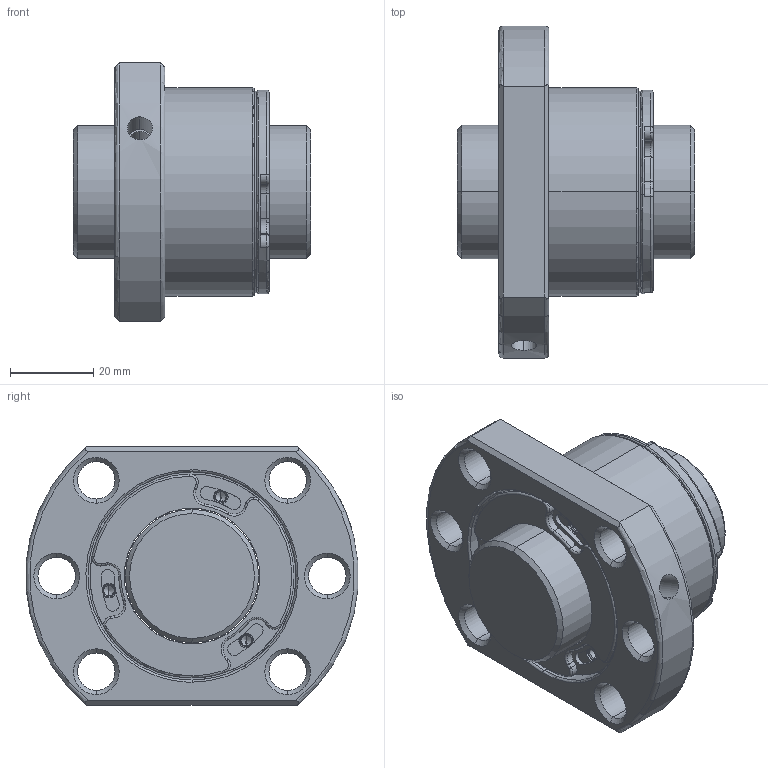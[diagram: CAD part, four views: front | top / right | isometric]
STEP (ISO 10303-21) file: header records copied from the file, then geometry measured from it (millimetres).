
FILE_DESCRIPTION (( 'STEP AP203' ), '1' );
FILE_NAME ('SFSR03205C1D-C.STEP', '2020-06-17T01:05:00', ( '' ), ( '' ), 'SwSTEP 2.0', 'SolidWorks 2013', '' );
FILE_SCHEMA (( 'CONFIG_CONTROL_DESIGN' ));
Length unit declared in the file: millimetre
Products named in the file (1): SFSR03205C1D-C
Bounding box: 57 x 79.74 x 62 mm (x, y, z)
Volume: 107090.9 mm3; surface area: 28240 mm2
Topology: 2 solids, 2 shells, 325 faces, 798 edges, 484 vertices
Faces by surface type: cylinder 146, plane 69, torus 58, cone 52
Entity records: 11358 total; most frequent: CARTESIAN_POINT 3352, DIRECTION 1862, ORIENTED_EDGE 1572, AXIS2_PLACEMENT_3D 803, EDGE_CURVE 786, VERTEX_POINT 484, CIRCLE 477, EDGE_LOOP 362
